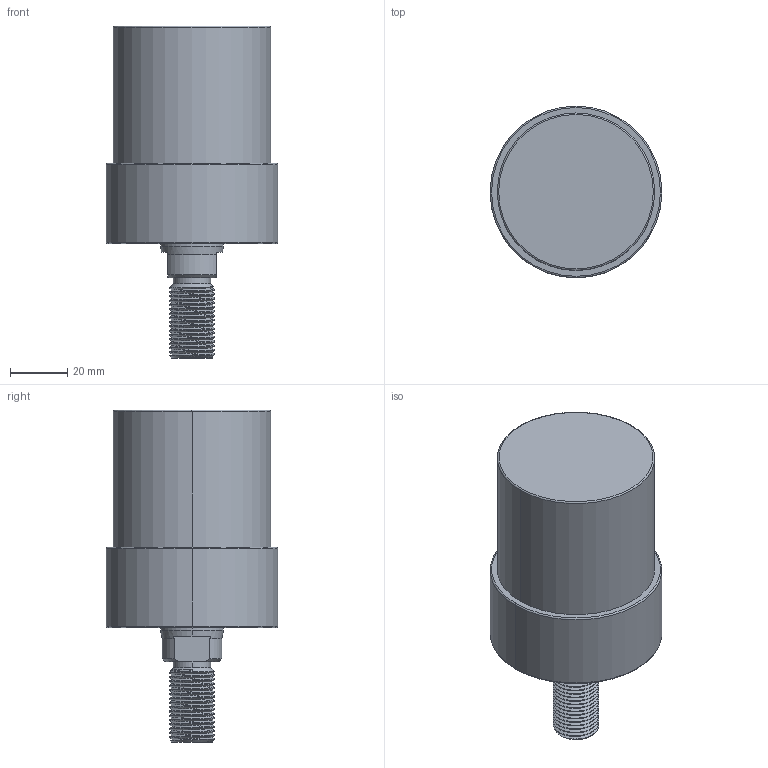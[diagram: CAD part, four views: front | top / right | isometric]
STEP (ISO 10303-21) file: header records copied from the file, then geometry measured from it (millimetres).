
FILE_DESCRIPTION (( 'STEP AP203' ), '1' );
FILE_NAME ('CLLU-055GT-035.STEP', '2020-01-16T00:37:27', ( '' ), ( '' ), 'SwSTEP 2.0', 'SolidWorks 2015', '' );
FILE_SCHEMA (( 'CONFIG_CONTROL_DESIGN' ));
Length unit declared in the file: millimetre
Products named in the file (1): CLLU-055GT-035
Bounding box: 60 x 60 x 116 mm (x, y, z)
Volume: 200475.8 mm3; surface area: 23275.9 mm2
Topology: 1 solids, 1 shells, 101 faces, 253 edges, 155 vertices
Faces by surface type: cylinder 55, cone 26, plane 12, torus 6, bspline 2
Entity records: 4879 total; most frequent: CARTESIAN_POINT 2609, ORIENTED_EDGE 490, DIRECTION 438, EDGE_CURVE 245, AXIS2_PLACEMENT_3D 176, VERTEX_POINT 155, EDGE_LOOP 110, ADVANCED_FACE 101
